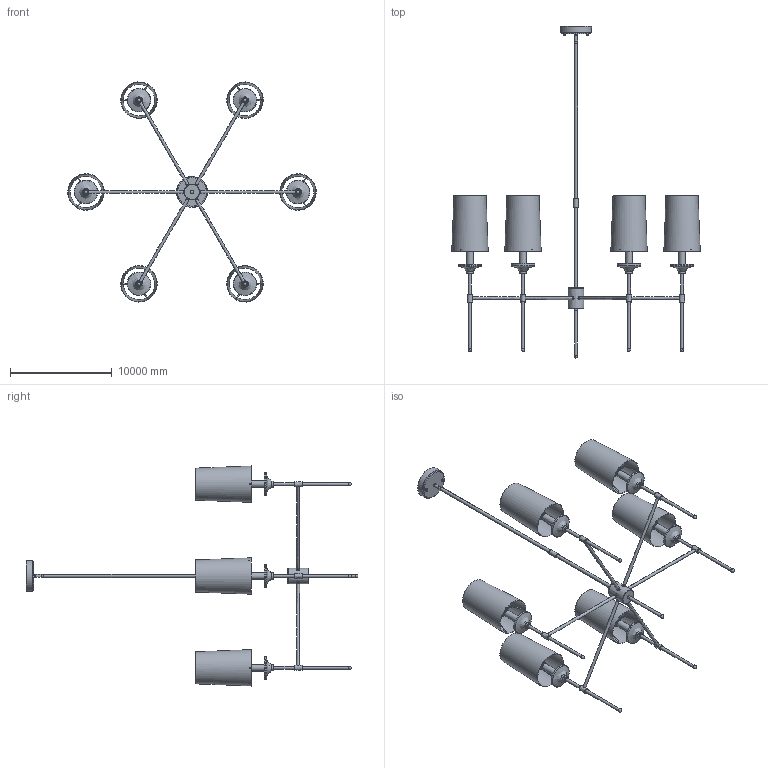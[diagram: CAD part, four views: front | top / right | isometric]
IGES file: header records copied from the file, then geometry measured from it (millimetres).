
Global section: file name: Emily Chandelier-6heads; native system: AutoCAD 2022 - 简体中文 (Simplified Chinese),62HAuto; preprocessor: desk Translation Framework DWG producer (atf_dwg_producer); organization: unknown; date: 20251106.145421; units: inch
Bounding box: 24383.37 x 32575.31 x 21590.84 mm (x, y, z)
Volume: 25761723195.4 mm3; surface area: 1129774333.5 mm2
Topology: 107 solids, 107 shells, 655 faces, 1295 edges, 894 vertices
Faces by surface type: bspline 655
